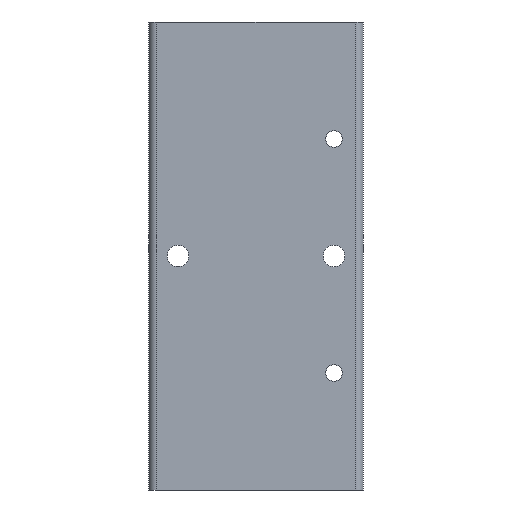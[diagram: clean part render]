
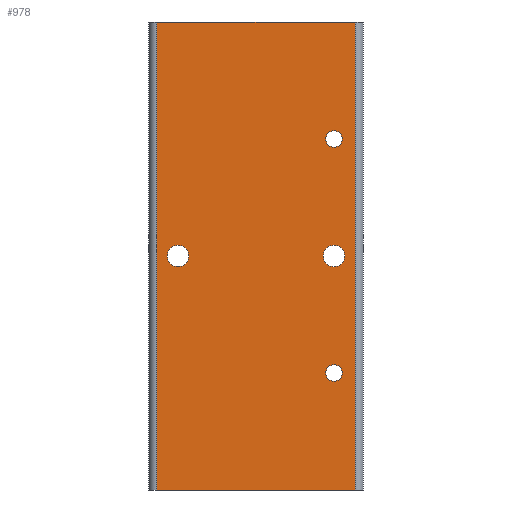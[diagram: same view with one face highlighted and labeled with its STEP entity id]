
A CAD part, left-side view. The second image highlights one B-rep face of the part: STEP entity #978.
In plain terms, the highlighted planar face has unit normal (-1, 0, 0).
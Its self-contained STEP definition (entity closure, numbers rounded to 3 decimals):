
#8 = EDGE_CURVE ( 'NONE', #2102, #1898, #330, .T. ) ;
#71 = EDGE_LOOP ( 'NONE', ( #143, #124, #1934, #1837 ) ) ;
#88 = VERTEX_POINT ( 'NONE', #708 ) ;
#99 = EDGE_CURVE ( 'NONE', #2165, #1309, #739, .T. ) ;
#124 = ORIENTED_EDGE ( 'NONE', *, *, #99, .F. ) ;
#137 = VERTEX_POINT ( 'NONE', #1011 ) ;
#143 = ORIENTED_EDGE ( 'NONE', *, *, #1996, .T. ) ;
#162 = EDGE_LOOP ( 'NONE', ( #1665, #2063 ) ) ;
#173 = ORIENTED_EDGE ( 'NONE', *, *, #1360, .T. ) ;
#177 = EDGE_CURVE ( 'NONE', #1289, #137, #1280, .T. ) ;
#178 = EDGE_CURVE ( 'NONE', #1739, #88, #1286, .T. ) ;
#181 = ORIENTED_EDGE ( 'NONE', *, *, #178, .T. ) ;
#206 = EDGE_CURVE ( 'NONE', #2115, #1985, #1422, .T. ) ;
#282 = EDGE_LOOP ( 'NONE', ( #173, #2036 ) ) ;
#330 = CIRCLE ( 'NONE', #331, 2.75 ) ;
#331 = AXIS2_PLACEMENT_3D ( 'NONE', #332, #333, #334 ) ;
#332 = CARTESIAN_POINT ( 'NONE',  ( -15., -17.5, 0. ) ) ;
#333 = DIRECTION ( 'NONE',  ( 1., 0., 0. ) ) ;
#334 = DIRECTION ( 'NONE',  ( 0., 1., 0. ) ) ;
#397 = CIRCLE ( 'NONE', #398, 2.75 ) ;
#398 = AXIS2_PLACEMENT_3D ( 'NONE', #399, #400, #401 ) ;
#399 = CARTESIAN_POINT ( 'NONE',  ( -15., -17.5, 0. ) ) ;
#400 = DIRECTION ( 'NONE',  ( 1., 0., 0. ) ) ;
#401 = DIRECTION ( 'NONE',  ( 0., 1., 0. ) ) ;
#413 = EDGE_CURVE ( 'NONE', #1738, #2030, #1774, .T. ) ;
#431 = CARTESIAN_POINT ( 'NONE',  ( -15., -14.75, 0. ) ) ;
#463 = EDGE_LOOP ( 'NONE', ( #2034, #2082 ) ) ;
#657 = CIRCLE ( 'NONE', #658, 2.1 ) ;
#658 = AXIS2_PLACEMENT_3D ( 'NONE', #659, #660, #661 ) ;
#659 = CARTESIAN_POINT ( 'NONE',  ( -15., -17.5, 30. ) ) ;
#660 = DIRECTION ( 'NONE',  ( 1., 0., 0. ) ) ;
#661 = DIRECTION ( 'NONE',  ( 0., 1., 0. ) ) ;
#708 = CARTESIAN_POINT ( 'NONE',  ( -15., -17.5, 32.1 ) ) ;
#739 = LINE ( 'NONE', #740, #741 ) ;
#740 = CARTESIAN_POINT ( 'NONE',  ( -15., -23., 60. ) ) ;
#741 = VECTOR ( 'NONE', #742, 1000. ) ;
#742 = DIRECTION ( 'NONE',  ( 0., 0., -1. ) ) ;
#889 = CARTESIAN_POINT ( 'NONE',  ( -15., -23., 60. ) ) ;
#932 = CARTESIAN_POINT ( 'NONE',  ( -15., 25.25, 0. ) ) ;
#978 = ADVANCED_FACE ( 'NONE', ( #1012, #1013, #1014, #1017, #1018 ), #1019, .F. ) ;
#987 = LINE ( 'NONE', #988, #989 ) ;
#988 = CARTESIAN_POINT ( 'NONE',  ( -15., 28., -60. ) ) ;
#989 = VECTOR ( 'NONE', #990, 1000. ) ;
#990 = DIRECTION ( 'NONE',  ( 0., -1., 0. ) ) ;
#1011 = CARTESIAN_POINT ( 'NONE',  ( -15., -17.5, -32.1 ) ) ;
#1012 = FACE_BOUND ( 'NONE', #162, .T. ) ;
#1013 = FACE_BOUND ( 'NONE', #2002, .T. ) ;
#1014 = FACE_BOUND ( 'NONE', #282, .T. ) ;
#1017 = FACE_BOUND ( 'NONE', #463, .T. ) ;
#1018 = FACE_OUTER_BOUND ( 'NONE', #71, .T. ) ;
#1019 = PLANE ( 'NONE',  #1020 ) ;
#1020 = AXIS2_PLACEMENT_3D ( 'NONE', #1021, #1022, #1023 ) ;
#1021 = CARTESIAN_POINT ( 'NONE',  ( -15., 28., 60. ) ) ;
#1022 = DIRECTION ( 'NONE',  ( 1., 0., 0. ) ) ;
#1023 = DIRECTION ( 'NONE',  ( 0., 1., 0. ) ) ;
#1185 = LINE ( 'NONE', #1186, #1187 ) ;
#1186 = CARTESIAN_POINT ( 'NONE',  ( -15., 28., 60. ) ) ;
#1187 = VECTOR ( 'NONE', #1188, 1000. ) ;
#1188 = DIRECTION ( 'NONE',  ( 0., -1., 0. ) ) ;
#1190 = CARTESIAN_POINT ( 'NONE',  ( -15., 28., -60. ) ) ;
#1208 = CARTESIAN_POINT ( 'NONE',  ( -15., -17.5, -27.9 ) ) ;
#1210 = CARTESIAN_POINT ( 'NONE',  ( -15., -23., -60. ) ) ;
#1218 = CIRCLE ( 'NONE', #1219, 2.75 ) ;
#1219 = AXIS2_PLACEMENT_3D ( 'NONE', #1220, #1221, #1222 ) ;
#1220 = CARTESIAN_POINT ( 'NONE',  ( -15., 22.5, 0. ) ) ;
#1221 = DIRECTION ( 'NONE',  ( 1., 0., 0. ) ) ;
#1222 = DIRECTION ( 'NONE',  ( 0., 1., 0. ) ) ;
#1252 = EDGE_CURVE ( 'NONE', #1738, #2165, #1185, .T. ) ;
#1280 = CIRCLE ( 'NONE', #1281, 2.1 ) ;
#1281 = AXIS2_PLACEMENT_3D ( 'NONE', #1282, #1283, #1284 ) ;
#1282 = CARTESIAN_POINT ( 'NONE',  ( -15., -17.5, -30. ) ) ;
#1283 = DIRECTION ( 'NONE',  ( 1., 0., 0. ) ) ;
#1284 = DIRECTION ( 'NONE',  ( 0., 1., 0. ) ) ;
#1286 = CIRCLE ( 'NONE', #1287, 2.1 ) ;
#1287 = AXIS2_PLACEMENT_3D ( 'NONE', #1288, #1291, #1292 ) ;
#1288 = CARTESIAN_POINT ( 'NONE',  ( -15., -17.5, 30. ) ) ;
#1289 = VERTEX_POINT ( 'NONE', #1208 ) ;
#1291 = DIRECTION ( 'NONE',  ( 1., 0., 0. ) ) ;
#1292 = DIRECTION ( 'NONE',  ( 0., 1., 0. ) ) ;
#1309 = VERTEX_POINT ( 'NONE', #1210 ) ;
#1338 = CIRCLE ( 'NONE', #1339, 2.1 ) ;
#1339 = AXIS2_PLACEMENT_3D ( 'NONE', #1340, #1341, #1344 ) ;
#1340 = CARTESIAN_POINT ( 'NONE',  ( -15., -17.5, -30. ) ) ;
#1341 = DIRECTION ( 'NONE',  ( 1., 0., 0. ) ) ;
#1344 = DIRECTION ( 'NONE',  ( 0., 1., 0. ) ) ;
#1360 = EDGE_CURVE ( 'NONE', #1985, #2115, #1218, .T. ) ;
#1381 = CARTESIAN_POINT ( 'NONE',  ( -15., 28., 60. ) ) ;
#1382 = CARTESIAN_POINT ( 'NONE',  ( -15., -17.5, 27.9 ) ) ;
#1422 = CIRCLE ( 'NONE', #1423, 2.75 ) ;
#1423 = AXIS2_PLACEMENT_3D ( 'NONE', #1424, #1425, #1426 ) ;
#1424 = CARTESIAN_POINT ( 'NONE',  ( -15., 22.5, 0. ) ) ;
#1425 = DIRECTION ( 'NONE',  ( 1., 0., 0. ) ) ;
#1426 = DIRECTION ( 'NONE',  ( 0., 1., 0. ) ) ;
#1607 = CARTESIAN_POINT ( 'NONE',  ( -15., -20.25, 0. ) ) ;
#1659 = CARTESIAN_POINT ( 'NONE',  ( -15., 19.75, 0. ) ) ;
#1665 = ORIENTED_EDGE ( 'NONE', *, *, #2062, .T. ) ;
#1738 = VERTEX_POINT ( 'NONE', #1381 ) ;
#1739 = VERTEX_POINT ( 'NONE', #1382 ) ;
#1774 = LINE ( 'NONE', #1781, #1782 ) ;
#1781 = CARTESIAN_POINT ( 'NONE',  ( -15., 28., 60. ) ) ;
#1782 = VECTOR ( 'NONE', #1783, 1000. ) ;
#1783 = DIRECTION ( 'NONE',  ( 0., 0., -1. ) ) ;
#1837 = ORIENTED_EDGE ( 'NONE', *, *, #413, .T. ) ;
#1889 = EDGE_CURVE ( 'NONE', #1898, #2102, #397, .T. ) ;
#1898 = VERTEX_POINT ( 'NONE', #431 ) ;
#1934 = ORIENTED_EDGE ( 'NONE', *, *, #1252, .F. ) ;
#1941 = EDGE_CURVE ( 'NONE', #88, #1739, #657, .T. ) ;
#1985 = VERTEX_POINT ( 'NONE', #932 ) ;
#1996 = EDGE_CURVE ( 'NONE', #2030, #1309, #987, .T. ) ;
#2002 = EDGE_LOOP ( 'NONE', ( #181, #2043 ) ) ;
#2030 = VERTEX_POINT ( 'NONE', #1190 ) ;
#2034 = ORIENTED_EDGE ( 'NONE', *, *, #1889, .T. ) ;
#2036 = ORIENTED_EDGE ( 'NONE', *, *, #206, .T. ) ;
#2043 = ORIENTED_EDGE ( 'NONE', *, *, #1941, .T. ) ;
#2062 = EDGE_CURVE ( 'NONE', #137, #1289, #1338, .T. ) ;
#2063 = ORIENTED_EDGE ( 'NONE', *, *, #177, .T. ) ;
#2082 = ORIENTED_EDGE ( 'NONE', *, *, #8, .T. ) ;
#2102 = VERTEX_POINT ( 'NONE', #1607 ) ;
#2115 = VERTEX_POINT ( 'NONE', #1659 ) ;
#2165 = VERTEX_POINT ( 'NONE', #889 ) ;
